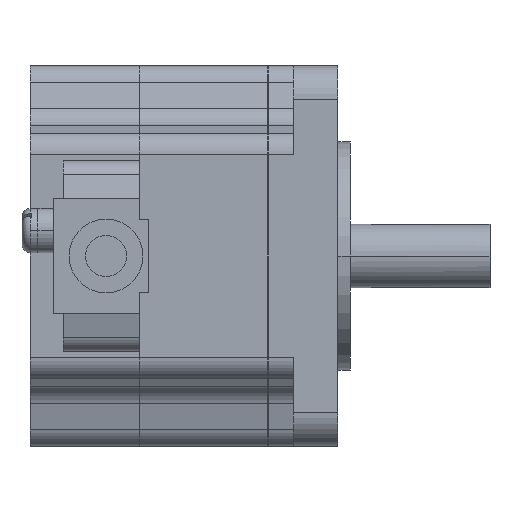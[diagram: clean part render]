
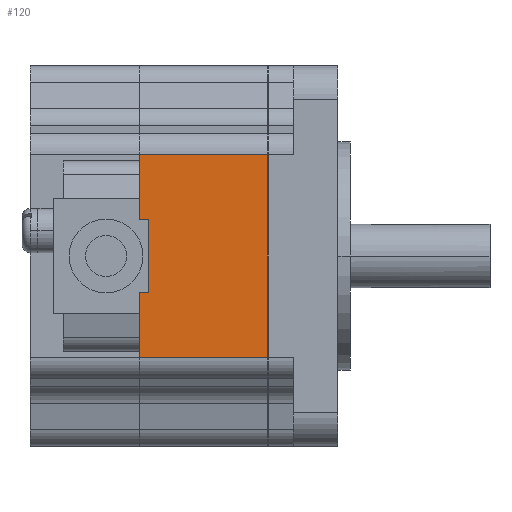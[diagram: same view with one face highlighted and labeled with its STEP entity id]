
A CAD part, front view. The second image highlights one B-rep face of the part: STEP entity #120.
In plain terms, the highlighted planar face has unit normal (0, -1, 0).
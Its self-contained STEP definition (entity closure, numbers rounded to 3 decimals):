
#120 = ADVANCED_FACE( '', ( #372 ), #373, .T. );
#372 = FACE_OUTER_BOUND( '', #797, .T. );
#373 = PLANE( '', #798 );
#797 = EDGE_LOOP( '', ( #1484, #1485, #1486, #1487, #1488, #1489, #1490, #1491 ) );
#798 = AXIS2_PLACEMENT_3D( '', #1492, #1493, #1494 );
#1484 = ORIENTED_EDGE( '', *, *, #3011, .T. );
#1485 = ORIENTED_EDGE( '', *, *, #3014, .T. );
#1486 = ORIENTED_EDGE( '', *, *, #3009, .T. );
#1487 = ORIENTED_EDGE( '', *, *, #3016, .T. );
#1488 = ORIENTED_EDGE( '', *, *, #3017, .T. );
#1489 = ORIENTED_EDGE( '', *, *, #3018, .T. );
#1490 = ORIENTED_EDGE( '', *, *, #3019, .F. );
#1491 = ORIENTED_EDGE( '', *, *, #3020, .T. );
#1492 = CARTESIAN_POINT( '', ( 0., -30., 24.7 ) );
#1493 = DIRECTION( '', ( 0., -1., 0. ) );
#1494 = DIRECTION( '', ( 0., 0., 1. ) );
#3009 = EDGE_CURVE( '', #3670, #3663, #3676, .T. );
#3011 = EDGE_CURVE( '', #3662, #3678, #3680, .T. );
#3014 = EDGE_CURVE( '', #3678, #3670, #3684, .T. );
#3016 = EDGE_CURVE( '', #3663, #3686, #3687, .T. );
#3017 = EDGE_CURVE( '', #3686, #3688, #3689, .T. );
#3018 = EDGE_CURVE( '', #3688, #3690, #3691, .T. );
#3019 = EDGE_CURVE( '', #3692, #3690, #3693, .T. );
#3020 = EDGE_CURVE( '', #3692, #3662, #3694, .T. );
#3662 = VERTEX_POINT( '', #4745 );
#3663 = VERTEX_POINT( '', #4746 );
#3670 = VERTEX_POINT( '', #4757 );
#3676 = LINE( '', #4766, #4767 );
#3678 = VERTEX_POINT( '', #4769 );
#3680 = LINE( '', #4772, #4773 );
#3684 = LINE( '', #4779, #4780 );
#3686 = VERTEX_POINT( '', #4783 );
#3687 = LINE( '', #4784, #4785 );
#3688 = VERTEX_POINT( '', #4786 );
#3689 = LINE( '', #4787, #4788 );
#3690 = VERTEX_POINT( '', #4789 );
#3691 = LINE( '', #4790, #4791 );
#3692 = VERTEX_POINT( '', #4792 );
#3693 = LINE( '', #4793, #4794 );
#3694 = LINE( '', #4795, #4796 );
#4745 = CARTESIAN_POINT( '', ( -31.25, -30., 5.78 ) );
#4746 = CARTESIAN_POINT( '', ( -31.25, -30., -5.78 ) );
#4757 = CARTESIAN_POINT( '', ( -29.8, -30., -5.78 ) );
#4766 = CARTESIAN_POINT( '', ( -15.65, -30., -5.78 ) );
#4767 = VECTOR( '', #6033, 1. );
#4769 = CARTESIAN_POINT( '', ( -29.8, -30., 5.78 ) );
#4772 = CARTESIAN_POINT( '', ( -15.65, -30., 5.78 ) );
#4773 = VECTOR( '', #6035, 1. );
#4779 = CARTESIAN_POINT( '', ( -29.8, -30., 12.35 ) );
#4780 = VECTOR( '', #6038, 1. );
#4783 = CARTESIAN_POINT( '', ( -31.25, -30., -16. ) );
#4784 = CARTESIAN_POINT( '', ( -31.25, -30., 12.35 ) );
#4785 = VECTOR( '', #6040, 1. );
#4786 = CARTESIAN_POINT( '', ( -11.05, -30., -16. ) );
#4787 = CARTESIAN_POINT( '', ( -27.75, -30., -16. ) );
#4788 = VECTOR( '', #6041, 1. );
#4789 = CARTESIAN_POINT( '', ( -11.05, -30., 16. ) );
#4790 = CARTESIAN_POINT( '', ( -11.05, -30., 12.35 ) );
#4791 = VECTOR( '', #6042, 1. );
#4792 = CARTESIAN_POINT( '', ( -31.25, -30., 16. ) );
#4793 = CARTESIAN_POINT( '', ( -27.75, -30., 16. ) );
#4794 = VECTOR( '', #6043, 1. );
#4795 = CARTESIAN_POINT( '', ( -31.25, -30., 12.35 ) );
#4796 = VECTOR( '', #6044, 1. );
#6033 = DIRECTION( '', ( -1., 0., 0. ) );
#6035 = DIRECTION( '', ( 1., 0., 0. ) );
#6038 = DIRECTION( '', ( 0., 0., -1. ) );
#6040 = DIRECTION( '', ( 0., 0., -1. ) );
#6041 = DIRECTION( '', ( 1., 0., 0. ) );
#6042 = DIRECTION( '', ( 0., 0., 1. ) );
#6043 = DIRECTION( '', ( 1., 0., 0. ) );
#6044 = DIRECTION( '', ( 0., 0., -1. ) );
